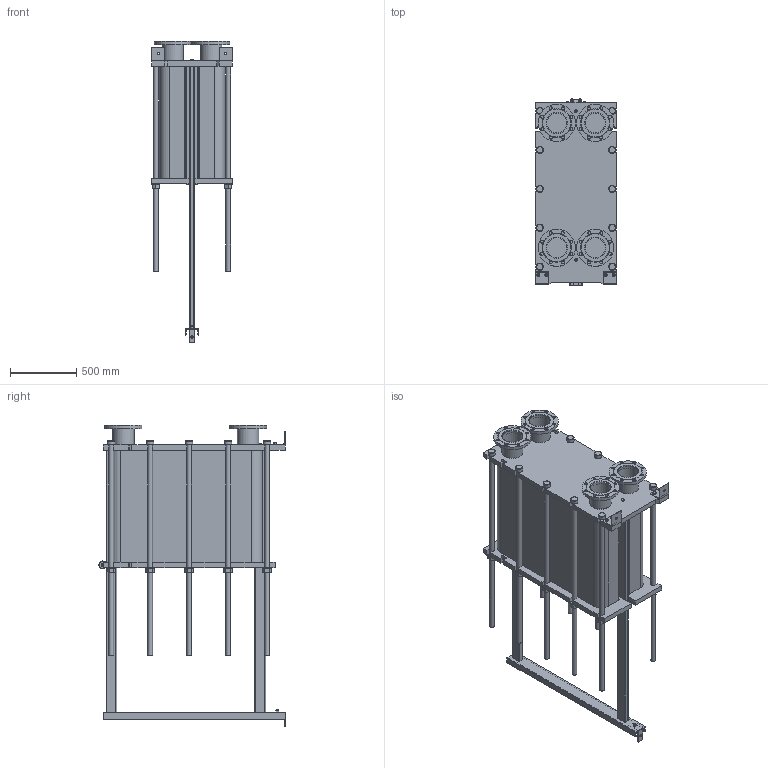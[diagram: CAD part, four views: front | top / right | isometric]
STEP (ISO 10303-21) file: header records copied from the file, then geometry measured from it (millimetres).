
FILE_DESCRIPTION(/* description */ (''),/* implementation_level */ '2;1');
FILE_NAME(/* name */ 'C:\Users\zhuro\Desktop\ENCO\TO\ЭН-041\ЭН-0,5-041-245-1.stp',/* time_stamp */ '2022-06-06T11:09:50+03:00',/* author */ ('zhuro'),/* organization */ (''),/* preprocessor_version */ 'ST-DEVELOPER v18.1',/* originating_system */ 'Autodesk Inventor 2022',/* authorisation */ '');
FILE_SCHEMA (('AUTOMOTIVE_DESIGN { 1 0 10303 214 3 1 1 }'));
Length unit declared in the file: millimetre
Products named in the file (1): ЭН-0,5-041-245-1
Bounding box: 610 x 1406.5 x 2277.5 mm (x, y, z)
Volume: 566062782.8 mm3; surface area: 12221642.2 mm2
Topology: 52 solids, 52 shells, 711 faces, 1696 edges, 1094 vertices
Faces by surface type: plane 487, cylinder 177, cone 41, torus 6
Full cylindrical faces by diameter (mm): 8 x4, 10 x2, 16 x8, 18 x3, 22 x32, 36 x24, 50 x1, 54 x10, 60 x12, 151 x4, 161 x8, 280 x4
Entity records: 22667 total; most frequent: CARTESIAN_POINT 5230, DIRECTION 3644, ORIENTED_EDGE 3392, EDGE_CURVE 1696, AXIS2_PLACEMENT_3D 1272, LINE 1100, VECTOR 1100, VERTEX_POINT 1094
